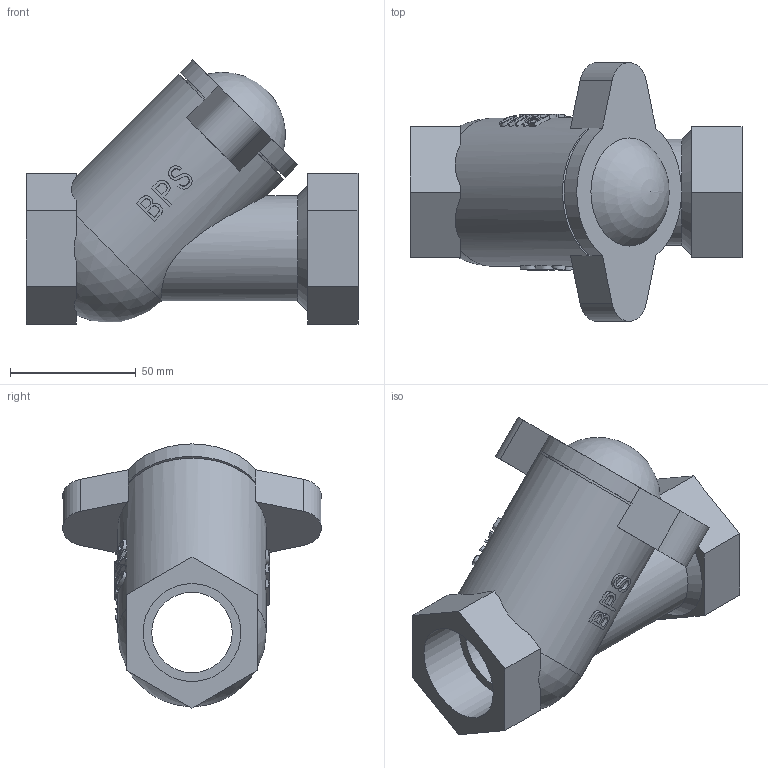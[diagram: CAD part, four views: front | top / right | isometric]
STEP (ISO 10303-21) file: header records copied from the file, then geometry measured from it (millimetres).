
FILE_DESCRIPTION( ( 'Unknown' ), '1' );
FILE_NAME( 'J:/Muud/ROOTSI BPS 3D vidinad/Kuuliga tagasiloogiklapid/STEP formaat/BPS 6540032 ball check valve DN32.stp', 'Unknown', ( 'Unknown' ), ( 'Unknown' ), 'PSStep 10.1', 'Unknown', ' ' );
FILE_SCHEMA( ( 'AUTOMOTIVE_DESIGN { 1 0 10303 214 1 1 1 1 }' ) );
Length unit declared in the file: millimetre
Products named in the file (1): 1
Bounding box: 132 x 102.93 x 105.02 mm (x, y, z)
Volume: 298198.2 mm3; surface area: 54193.9 mm2
Topology: 1 solids, 1 shells, 207 faces, 523 edges, 346 vertices
Faces by surface type: plane 120, bspline 45, cylinder 39, sphere 2, cone 1
Full cylindrical faces by diameter (mm): 32 x1, 38.952 x2, 42 x1, 51 x1, 59 x1
Entity records: 15132 total; most frequent: CARTESIAN_POINT 9418, ORIENTED_EDGE 1012, EDGE_CURVE 506, DIRECTION 480, B_SPLINE_CURVE_WITH_KNOTS 396, VERTEX_POINT 341, EDGE_LOOP 253, FACE_OUTER_BOUND 217
